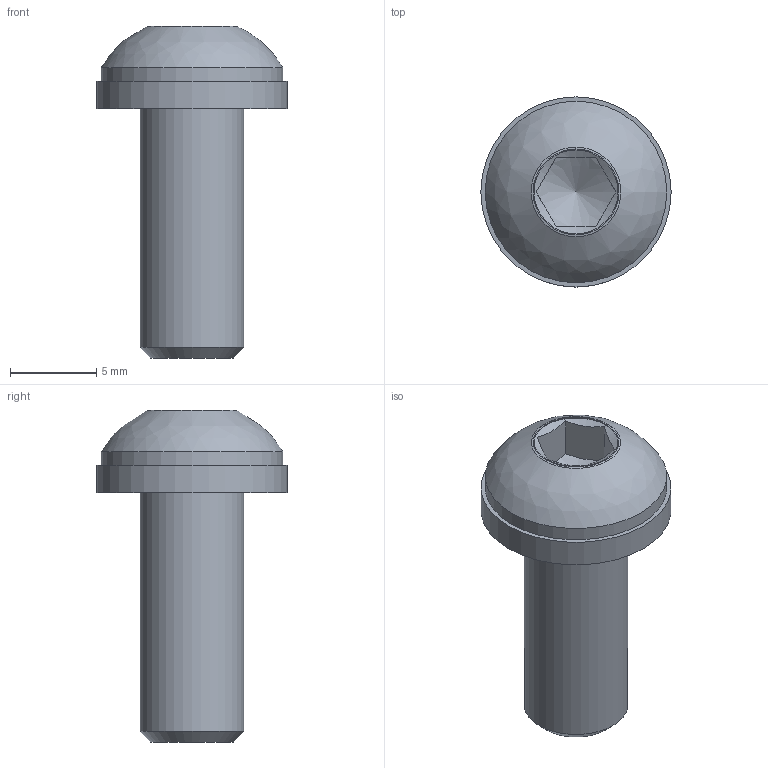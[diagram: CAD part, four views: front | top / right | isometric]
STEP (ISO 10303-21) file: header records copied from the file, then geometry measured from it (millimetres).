
FILE_DESCRIPTION((''),'2;1');
FILE_NAME('G026666000_STEP.STP','2021-06-30T12:12:12',( 'Author'),(''),'Open CASCADE STEP processor 7.3','','Unknown' );
FILE_SCHEMA(('AUTOMOTIVE_DESIGN { 1 0 10303 214 1 1 1 1 }'));
Length unit declared in the file: millimetre
Products named in the file (3): G026666000; 024033; Scheibe_DIN_433_1_6.4_v9.50
Assembly tree (2 placements, depth 2):
  G026666000
    024033
    Scheibe_DIN_433_1_6.4_v9.50
Bounding box: 11 x 11 x 19.2 mm (x, y, z)
Volume: 715.5 mm3; surface area: 767.2 mm2
Topology: 2 solids, 2 shells, 27 faces, 64 edges, 42 vertices
Faces by surface type: plane 11, cylinder 10, cone 3, torus 2, revolution 1
Full cylindrical faces by diameter (mm): 6 x1, 6.4 x1, 10.5 x1, 11 x1
Entity records: 2159 total; most frequent: CARTESIAN_POINT 697, DIRECTION 227, ORIENTED_EDGE 126, PCURVE 126, DEFINITIONAL_REPRESENTATION 126, LINE 105, VECTOR 105, EDGE_CURVE 63
